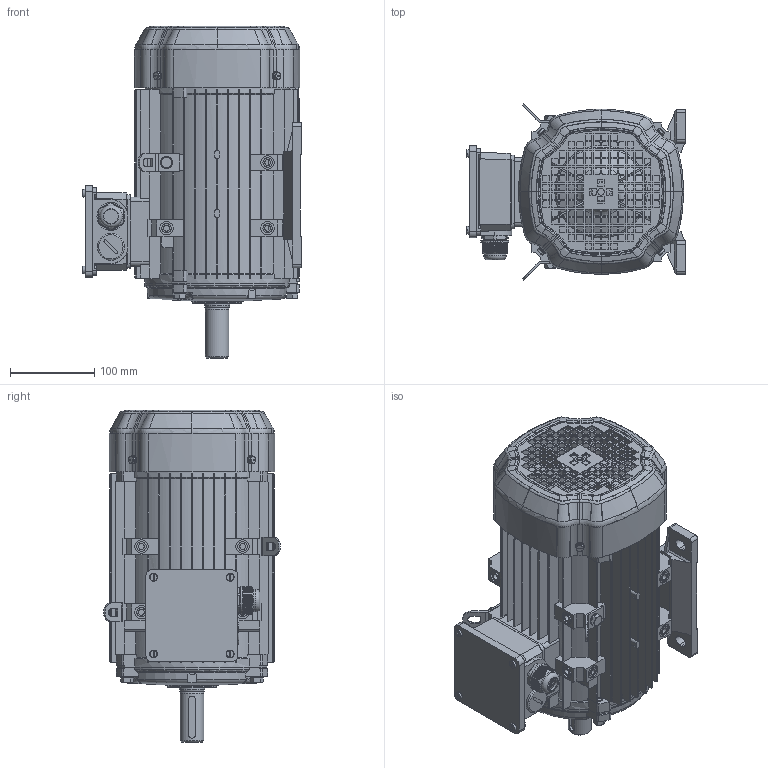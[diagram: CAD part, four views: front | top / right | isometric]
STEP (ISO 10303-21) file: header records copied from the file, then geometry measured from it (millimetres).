
FILE_DESCRIPTION(/* description */ (''),/* implementation_level */ '2;1');
FILE_NAME(/* name */ 'ACA-100L3-4-4kW-B3-IE2.prt.stp',/* time_stamp */ '2017-06-24T07:58:02+08:00',/* author */ (''),/* organization */ (''),/* preprocessor_version */ 'ST-DEVELOPER v16',/* originating_system */ 'SIEMENS PLM Software NX 10.0',/* authorisation */ '');
FILE_SCHEMA (('CONFIG_CONTROL_DESIGN'));
Products named in the file (1): ACA-100L3-4-4kW-B3-IE2
Bounding box: 259.5 x 210.01 x 394 mm (x, y, z)
Volume: 1752082.9 mm3; surface area: 1067775.2 mm2
Topology: 55 solids, 55 shells, 4295 faces, 11878 edges, 7825 vertices
Faces by surface type: plane 2316, cylinder 1350, bspline 308, cone 158, torus 151, sphere 12
Full cylindrical faces by diameter (mm): 4 x6, 4.48 x8, 4.8 x4, 5 x13, 5.3 x4, 5.8 x14, 7 x22, 8 x13, 8.58 x2, 9 x6, 10 x11, 11 x16, 12 x4, 13 x4, 14.785 x2, 15 x4, 16 x16, 17.188 x1, 20.312 x3, 22.6 x1, 23.438 x10, 24.2 x3, 24.219 x6, 25 x18, 25.781 x6, 26.562 x6, 26.953 x1, 28 x1, 30 x6, 32 x1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
Entity records: 178947 total; most frequent: CARTESIAN_POINT 73663, ORIENTED_EDGE 22632, DIRECTION 20386, EDGE_CURVE 11316, VERTEX_POINT 7629, AXIS2_PLACEMENT_3D 7052, LINE 6282, VECTOR 6282
